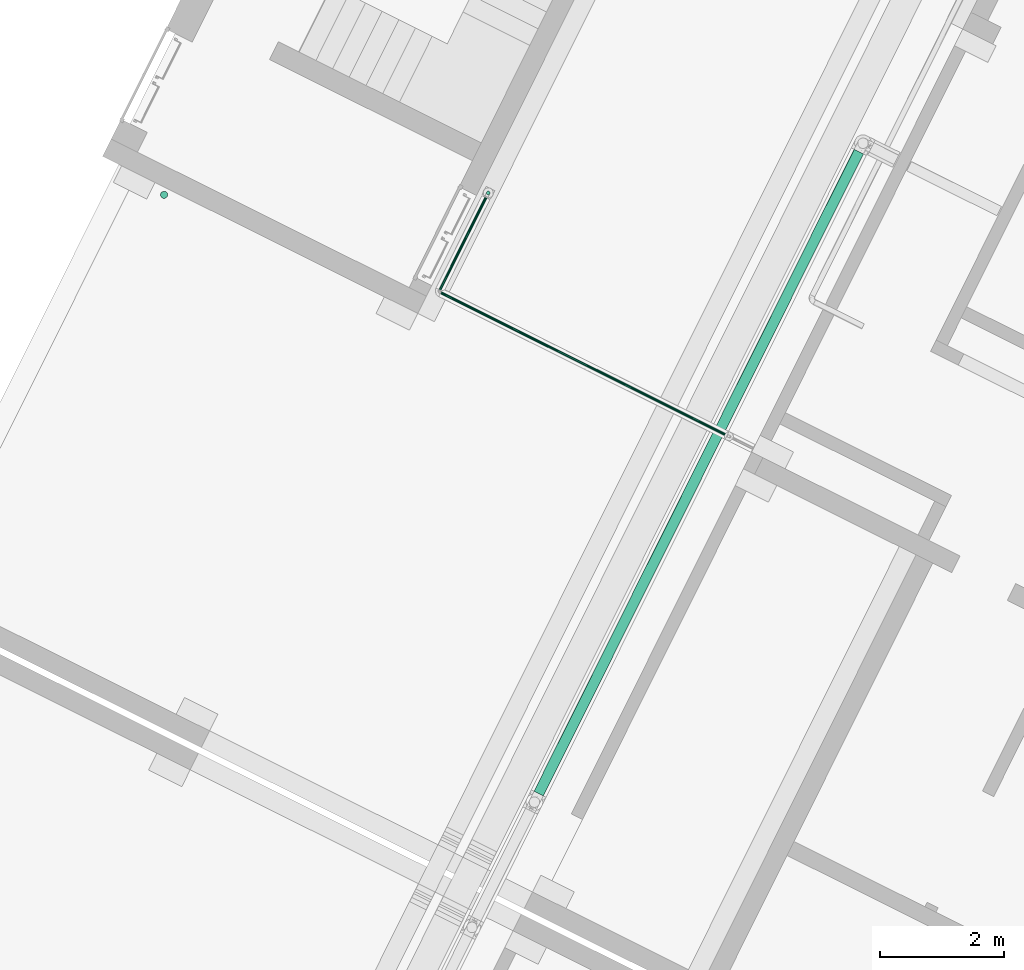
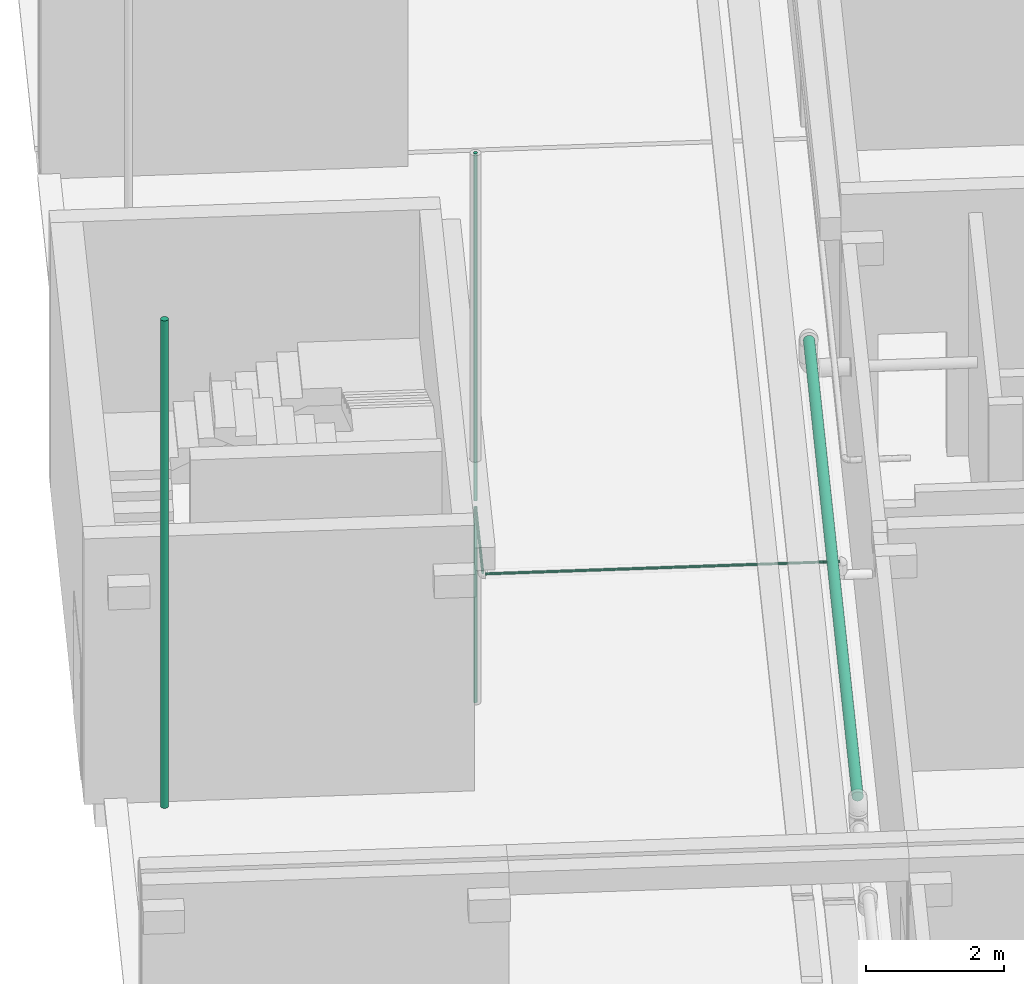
# One storey, part 63 of 91: 6 flow segments.
"""IFC2X3 building model written with IfcOpenShell, lengths in metres."""

from ifc_helpers import new_model, entity, si_unit, converted_unit, derived_unit, direction, frame, frame_2d, origin, origin_2d_with_axis, place, context, subcontext, project, spatial, circle, extrude, type_object, element, save


model = new_model("IFC2X3")

# Units and contexts
model_context = context("Model", 3, precision=1e-05, world=origin(), true_north=direction((0.894925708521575, 0.446215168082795)))
context_of_model = context(None, 3, precision=1e-05, world=origin(), true_north=direction((0.894925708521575, 0.446215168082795)))
body_context = subcontext(model_context, "Body", "Model", "MODEL_VIEW")
ifc_project = project(units=[si_unit("LENGTHUNIT", "METRE"), si_unit("AREAUNIT", "SQUARE_METRE"), si_unit("VOLUMEUNIT", "CUBIC_METRE"), converted_unit("PLANEANGLEUNIT", "DEGREE", entity("IfcRatioMeasure", 0.0174532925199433), si_unit("PLANEANGLEUNIT", "RADIAN"), dimensions=[0, 0, 0, 0, 0, 0, 0]), si_unit("MASSUNIT", "GRAM", prefix="KILO"), si_unit("TIMEUNIT", "SECOND"), si_unit("FREQUENCYUNIT", "HERTZ"), si_unit("THERMODYNAMICTEMPERATUREUNIT", "DEGREE_CELSIUS"), derived_unit("THERMALTRANSMITTANCEUNIT", [(si_unit("MASSUNIT", "GRAM", prefix="KILO"), 1), (si_unit("THERMODYNAMICTEMPERATUREUNIT", "KELVIN"), -1), (si_unit("TIMEUNIT", "SECOND"), -3)]), derived_unit("VOLUMETRICFLOWRATEUNIT", [(si_unit("LENGTHUNIT", "METRE"), 3), (si_unit("TIMEUNIT", "SECOND"), -1)]), si_unit("ELECTRICCURRENTUNIT", "AMPERE"), si_unit("ELECTRICVOLTAGEUNIT", "VOLT"), si_unit("POWERUNIT", "WATT"), si_unit("FORCEUNIT", "NEWTON", prefix="KILO"), si_unit("ILLUMINANCEUNIT", "LUX"), si_unit("LUMINOUSFLUXUNIT", "LUMEN"), si_unit("LUMINOUSINTENSITYUNIT", "CANDELA"), si_unit("PRESSUREUNIT", "PASCAL")], contexts=[model_context, context_of_model])

# Site, building, storey
site_placement = place(None, frame((218.228324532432, 584.720189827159, 0.0), z_axis=(0.0, 0.0, 1.0), x_axis=(0.446215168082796, 0.894925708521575, 0.0)))
site = spatial("IfcSite", under=ifc_project, at=site_placement, Name="Default", CompositionType="ELEMENT")
building_placement = place(site_placement, origin())
building = spatial("IfcBuilding", under=site, at=building_placement, CompositionType="ELEMENT")
storey_placement = place(building_placement, origin())
storey = spatial("IfcBuildingStorey", under=building, at=storey_placement, Name="0 - Piano Terra", CompositionType="ELEMENT", Elevation=0.0)

# Flow segments
pipe_segment_type_1 = type_object("IfcPipeSegmentType", Name="Tubazione:Pluviale-Tubazione", PredefinedType="NOTDEFINED")
flow_segment_1_placement = place(storey_placement, frame((-5.15703029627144, 5.24017573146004, 0.0)))
element("IfcFlowSegment", 1, at=flow_segment_1_placement, inside=storey, type_object=pipe_segment_type_1, Name="Tubazione:Pluviale-Tubazione", ObjectType="Tubazione:Pluviale-Tubazione", context=body_context, shape_type="SweptSolid", body=[
    extrude(circle(Radius=0.05715, at=origin_2d_with_axis()), frame((0.0587452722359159, 0.0587452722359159, 0.0)), (0.0, 0.0, 1.0), 8.61),
])
pipe_segment_type_2 = type_object("IfcPipeSegmentType", Name="Tubazione:Riscaldamento-Tubazione", PredefinedType="NOTDEFINED")
flow_segment_2_placement = place(storey_placement, frame((-11.0270740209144, -4.47094926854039, 3.81426722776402)))
element("IfcFlowSegment", 2, at=flow_segment_2_placement, inside=storey, type_object=pipe_segment_type_2, Name="Tubazione:Riscaldamento-Tubazione", ObjectType="Tubazione:Riscaldamento-Tubazione", context=body_context, shape_type="SweptSolid", body=[
    extrude(circle(Radius=0.0841375, at=frame_2d((0.0, -5.41433564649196e-16), x_axis=(1.0, 0.0))), frame((0.0, 0.0857327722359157, 0.0857327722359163), z_axis=(1.0, 0.0, 0.0), x_axis=(0.0, 1.0, 0.0)), (0.0, 0.0, 1.0), 11.5323759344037),
])
pipe_segment_type_3 = type_object("IfcPipeSegmentType", Name="Tubazione:Antincendio-Tubazione", PredefinedType="NOTDEFINED")
flow_segment_3_placement = place(storey_placement, frame((-4.54454925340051, -4.5268766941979, 3.47732218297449)))
element("IfcFlowSegment", 3, at=flow_segment_3_placement, inside=storey, type_object=pipe_segment_type_3, Name="Tubazione:Antincendio-Tubazione", ObjectType="Tubazione:Antincendio-Tubazione", context=body_context, shape_type="SweptSolid", body=[
    extrude(circle(Radius=0.021082, at=origin_2d_with_axis()), frame((0.0226772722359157, 4.16437724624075e-08, 0.0226874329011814), z_axis=(0.0, 1.0, -1.97532367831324e-06), x_axis=(-1.0, 0.0, 0.0)), (0.0, 0.0, 1.0), 5.14379765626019),
])
flow_segment_4_placement = place(storey_placement, frame((-4.48987198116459, 0.626243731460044, 3.47732211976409)))
element("IfcFlowSegment", 4, at=flow_segment_4_placement, inside=storey, type_object=pipe_segment_type_3, Name="Tubazione:Antincendio-Tubazione", ObjectType="Tubazione:Antincendio-Tubazione", context=body_context, shape_type="SweptSolid", body=[
    extrude(circle(Radius=0.021082, at=origin_2d_with_axis()), frame((0.0, 0.0226772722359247, 0.0226772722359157), z_axis=(1.0, 0.0, 0.0), x_axis=(0.0, -1.0, 0.0)), (0.0, 0.0, 1.0), 1.65800000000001),
])
flow_segment_5_placement = place(storey_placement, frame((-2.77754279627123, 0.617163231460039, 0.0)))
element("IfcFlowSegment", 5, at=flow_segment_5_placement, inside=storey, type_object=pipe_segment_type_3, Name="Tubazione:Antincendio-Tubazione", ObjectType="Tubazione:Antincendio-Tubazione", context=body_context, shape_type="SweptSolid", body=[
    extrude(circle(Radius=0.0301625, at=origin_2d_with_axis()), frame((0.0317577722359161, 0.0317577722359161, 0.0)), (0.0, 0.0, 1.0), 3.43599939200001),
])
flow_segment_6_placement = place(storey_placement, frame((-2.77754279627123, 0.617163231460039, 3.56399939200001)))
element("IfcFlowSegment", 6, at=flow_segment_6_placement, inside=storey, type_object=pipe_segment_type_3, Name="Tubazione:Antincendio-Tubazione", ObjectType="Tubazione:Antincendio-Tubazione", context=body_context, shape_type="SweptSolid", body=[
    extrude(circle(Radius=0.0301625, at=origin_2d_with_axis()), frame((0.0317577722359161, 0.0317577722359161, 0.0), z_axis=(0.0, 0.0, 1.0), x_axis=(-1.0, 0.0, 0.0)), (0.0, 0.0, 1.0), 6.13600060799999),
])

save(model, "model.ifc")
